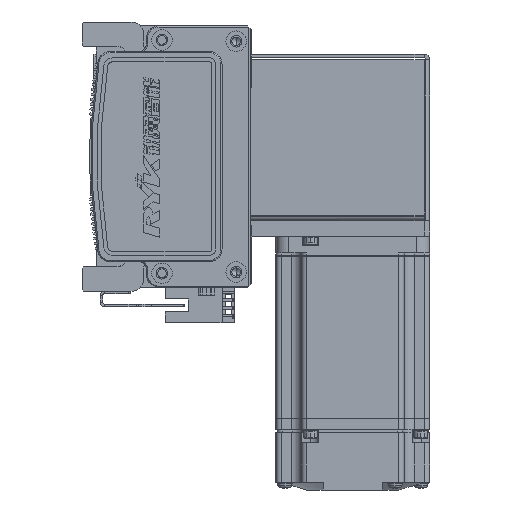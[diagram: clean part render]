
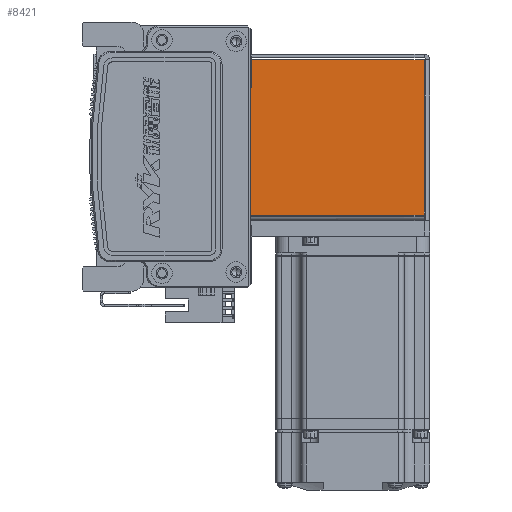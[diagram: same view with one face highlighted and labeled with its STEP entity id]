
A CAD part, left-side view. The second image highlights one B-rep face of the part: STEP entity #8421.
In plain terms, the highlighted planar face has unit normal (-1, 0, 0) as drawn and (0, 0, -1) by its records, which use the part's own axes.
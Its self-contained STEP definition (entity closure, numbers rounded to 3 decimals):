
#2333 = DIRECTION ( 'NONE',  ( 0., -1., 0. ) ) ;
#8421 = ADVANCED_FACE ( 'NONE', ( #56756 ), #18664, .F. ) ;
#9676 = LINE ( 'NONE', #59227, #28527 ) ;
#11752 = CARTESIAN_POINT ( 'NONE',  ( 30.263, 72.5, -35. ) ) ;
#15709 = VECTOR ( 'NONE', #19732, 1000. ) ;
#16597 = ORIENTED_EDGE ( 'NONE', *, *, #34716, .F. ) ;
#17612 = ORIENTED_EDGE ( 'NONE', *, *, #33024, .T. ) ;
#18664 = PLANE ( 'NONE',  #55838 ) ;
#19732 = DIRECTION ( 'NONE',  ( 1., 0., 0. ) ) ;
#23510 = ORIENTED_EDGE ( 'NONE', *, *, #61090, .T. ) ;
#25429 = DIRECTION ( 'NONE',  ( 0., 1., 0. ) ) ;
#28527 = VECTOR ( 'NONE', #53249, 1000. ) ;
#29180 = CARTESIAN_POINT ( 'NONE',  ( -30.293, 0.737, -35. ) ) ;
#29558 = VERTEX_POINT ( 'NONE', #56699 ) ;
#30535 = VECTOR ( 'NONE', #25429, 1000. ) ;
#31758 = ORIENTED_EDGE ( 'NONE', *, *, #57988, .T. ) ;
#33024 = EDGE_CURVE ( 'NONE', #35942, #57965, #59643, .T. ) ;
#34716 = EDGE_CURVE ( 'NONE', #35942, #51126, #67992, .T. ) ;
#35942 = VERTEX_POINT ( 'NONE', #29180 ) ;
#37300 = CARTESIAN_POINT ( 'NONE',  ( 30.263, 0.737, -35. ) ) ;
#39840 = EDGE_LOOP ( 'NONE', ( #31758, #16597, #17612, #23510 ) ) ;
#40986 = VECTOR ( 'NONE', #66591, 1000. ) ;
#50522 = CARTESIAN_POINT ( 'NONE',  ( 0., 0., -35. ) ) ;
#51126 = VERTEX_POINT ( 'NONE', #37300 ) ;
#52719 = CARTESIAN_POINT ( 'NONE',  ( -30.293, 0., -35. ) ) ;
#53249 = DIRECTION ( 'NONE',  ( 1., 0., 0. ) ) ;
#55838 = AXIS2_PLACEMENT_3D ( 'NONE', #50522, #62224, #2333 ) ;
#56699 = CARTESIAN_POINT ( 'NONE',  ( 30.263, 72.5, -35. ) ) ;
#56756 = FACE_OUTER_BOUND ( 'NONE', #39840, .T. ) ;
#57965 = VERTEX_POINT ( 'NONE', #67125 ) ;
#57988 = EDGE_CURVE ( 'NONE', #29558, #51126, #64082, .T. ) ;
#59227 = CARTESIAN_POINT ( 'NONE',  ( 0., 72.5, -35. ) ) ;
#59643 = LINE ( 'NONE', #52719, #30535 ) ;
#61090 = EDGE_CURVE ( 'NONE', #57965, #29558, #9676, .T. ) ;
#62224 = DIRECTION ( 'NONE',  ( 0., 0., 1. ) ) ;
#64082 = LINE ( 'NONE', #11752, #40986 ) ;
#66591 = DIRECTION ( 'NONE',  ( 0., -1., 0. ) ) ;
#67125 = CARTESIAN_POINT ( 'NONE',  ( -30.293, 72.5, -35. ) ) ;
#67992 = LINE ( 'NONE', #68118, #15709 ) ;
#68118 = CARTESIAN_POINT ( 'NONE',  ( 32.5, 0.737, -35. ) ) ;
